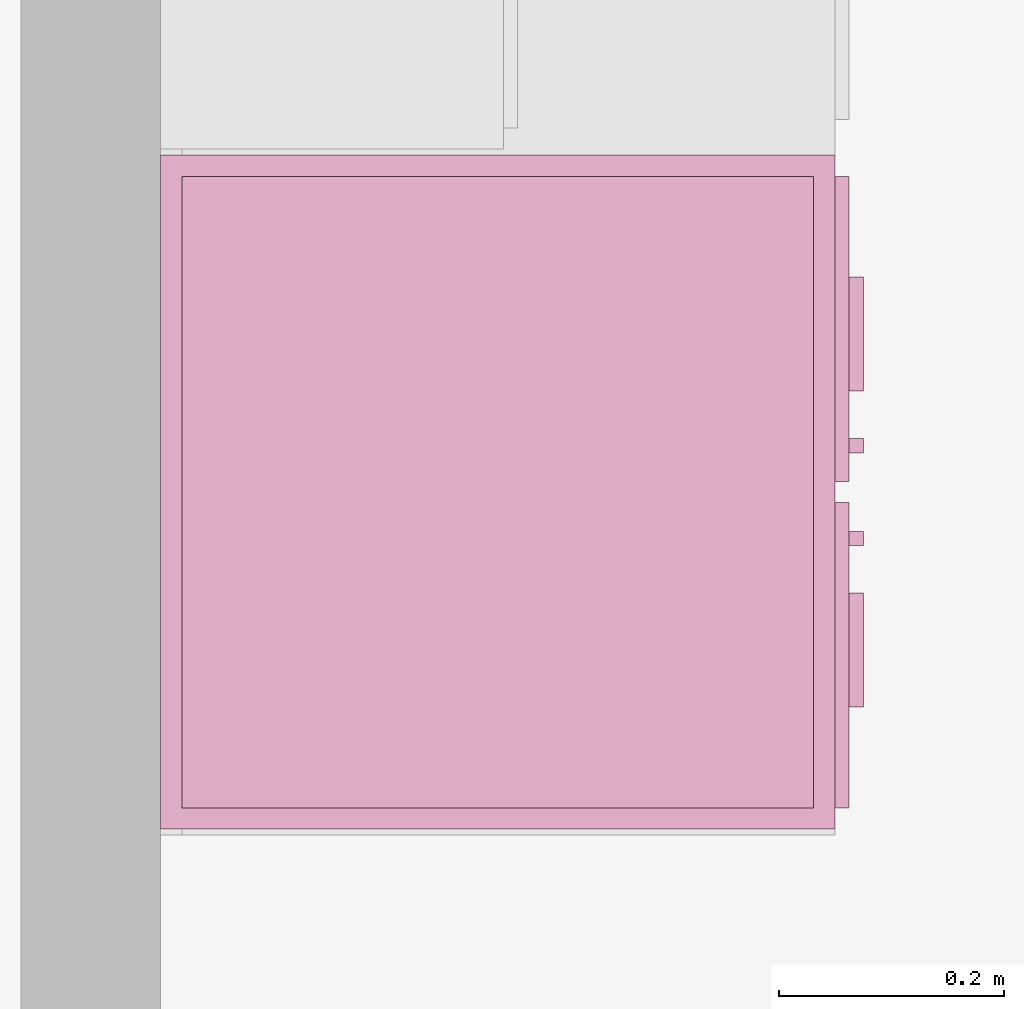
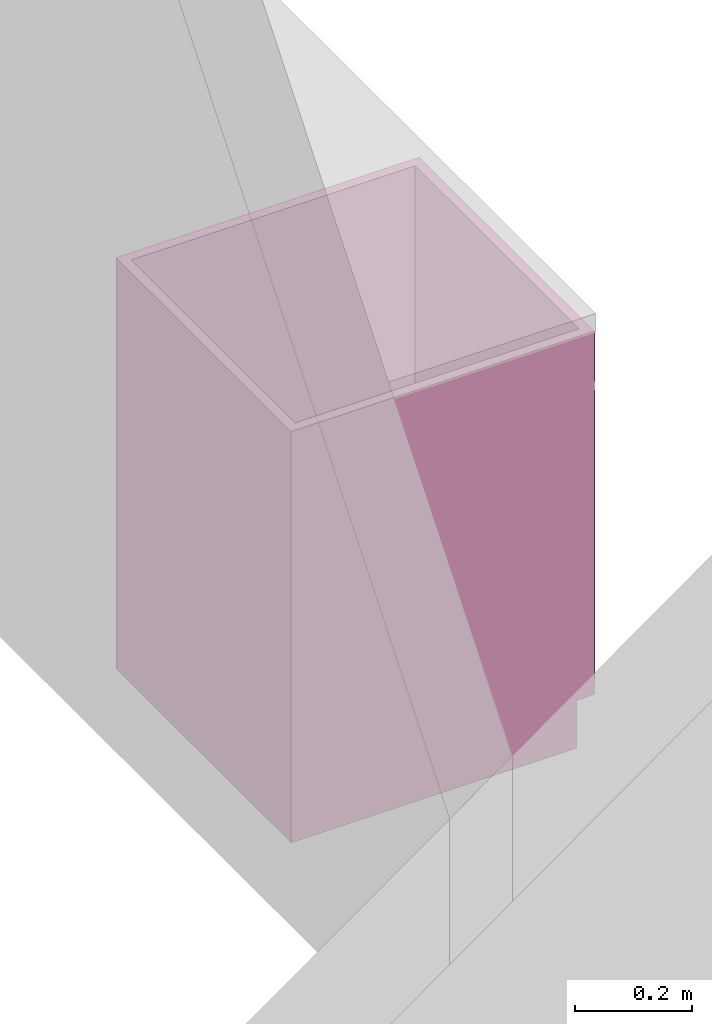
# One storey, part 75 of 87: 1 furnishing.
"""IFC2X3 building model written with IfcOpenShell, lengths in metres."""

from ifc_helpers import new_model, entity, si_unit, converted_unit, frame, origin, place, context, project, spatial, face_set, surface_model, source, transform, mapped, type_object, type_shapes, element, save


model = new_model("IFC2X3")

# Units and contexts
model_context = context("Model", 3, precision=1e-09, world=origin())
plan_context = context("Plan", 3, precision=1e-09, world=origin())
ifc_project = project(units=[si_unit("LENGTHUNIT", "METRE"), si_unit("AREAUNIT", "SQUARE_METRE"), si_unit("VOLUMEUNIT", "CUBIC_METRE"), converted_unit("PLANEANGLEUNIT", "DEGREE", entity("IfcRatioMeasure", 0.01745329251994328), si_unit("PLANEANGLEUNIT", "RADIAN"), dimensions=[0, 0, 0, 0, 0, 0, 0]), si_unit("TIMEUNIT", "SECOND")], contexts=[model_context, plan_context])

# Site, building, storey, space
site_placement = place(None, origin())
site = spatial("IfcSite", under=ifc_project, at=site_placement, Name="Default", CompositionType="ELEMENT")
building_placement = place(site_placement, origin())
building = spatial("IfcBuilding", under=site, at=building_placement, CompositionType="ELEMENT")
storey_placement = place(building_placement, origin())
storey = spatial("IfcBuildingStorey", under=building, at=storey_placement, Name="First Floor", CompositionType="ELEMENT", Elevation=-3.531500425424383e-13)
space_placement = place(storey_placement, origin())
space = spatial("IfcSpace", under=storey, at=space_placement, Name="1E04", CompositionType="ELEMENT", InteriorOrExteriorSpace="INTERNAL")

# Furnishing
furniture_type = type_object("IfcFurnitureType", Name="600mm", AssemblyPlace="NOTDEFINED")
shared_shape = source(origin(), model_context, "Body", "SurfaceModel", [
    surface_model("IfcFaceBasedSurfaceModel", [(0.5809499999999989, 0.0444500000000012, 0.86000000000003), (0.5809499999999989, 0.0444500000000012, 0.09999999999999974), (0.01905000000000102, 0.0444500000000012, 0.09999999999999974), (0.01905000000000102, 0.0444500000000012, 0.86000000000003), (0.5999999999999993, 0.02540000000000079, 0.8600000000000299), (0.0, 0.02540000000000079, 0.8600000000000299), (0.5999999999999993, 0.02540000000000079, 0.09999999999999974), (0.0, 0.02540000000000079, 0.0999999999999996), (0.01905000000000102, 0.6063499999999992, 0.86000000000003), (0.01905000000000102, 0.6063499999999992, 0.09999999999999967), (0.01905000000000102, 0.06040000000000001, 0.09999999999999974), (0.0, 0.6253999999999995, 0.8600000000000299), (0.0, 0.6254000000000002, 0.0), (0.0, 0.06040000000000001, 0.0), (0.0, 0.06040000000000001, 0.09999999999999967), (0.5809499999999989, 0.6063499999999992, 0.86000000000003), (0.5809499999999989, 0.6063499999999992, 0.09999999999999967), (0.5999999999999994, 0.6253999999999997, 0.8600000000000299), (0.5999999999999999, 0.6253999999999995, 0.0), (0.5809499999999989, 0.06040000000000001, 0.09999999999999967), (0.5999999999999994, 0.06040000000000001, 0.09999999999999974), (0.5999999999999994, 0.06040000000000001, 0.0), (0.2103250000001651, 0.0, 0.8155500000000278), (0.2103250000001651, 0.0, 0.8028500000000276), (0.1087250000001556, 0.0, 0.8028500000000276), (0.1087250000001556, 0.0, 0.8155500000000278), (0.4912750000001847, 0.0, 0.8155500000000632), (0.4912750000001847, 0.0, 0.8028500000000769), (0.3896750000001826, 0.0, 0.8028500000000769), (0.3896750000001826, 0.0, 0.8155500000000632), (0.2650750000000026, 0.0, 0.6822000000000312), (0.2650750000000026, 0.0, 0.5806000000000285), (0.2523750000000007, 0.0, 0.5806000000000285), (0.2523750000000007, 0.0, 0.6822000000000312), (0.3476249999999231, 0.0, 0.6822000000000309), (0.3476249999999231, 0.0, 0.5806000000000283), (0.3349249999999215, 0.0, 0.5806000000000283), (0.3349249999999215, 0.0, 0.6822000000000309), (0.2103250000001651, 0.0127000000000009, 0.8155500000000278), (0.2103250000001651, 0.0127000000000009, 0.8028500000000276), (0.1087250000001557, 0.01270000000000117, 0.8028500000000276), (0.1087250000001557, 0.01270000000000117, 0.8155500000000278), (0.4912750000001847, 0.01269999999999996, 0.8155500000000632), (0.4912750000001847, 0.01269999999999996, 0.8028500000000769), (0.3896750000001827, 0.01270000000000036, 0.8028500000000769), (0.3896750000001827, 0.01270000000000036, 0.8155500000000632), (0.2650750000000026, 0.01270000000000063, 0.6822000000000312), (0.2650750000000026, 0.01270000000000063, 0.5806000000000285), (0.2523750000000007, 0.01270000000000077, 0.5806000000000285), (0.2523750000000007, 0.01270000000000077, 0.6822000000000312), (0.3476249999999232, 0.0127000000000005, 0.6822000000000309), (0.3476249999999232, 0.0127000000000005, 0.5806000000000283), (0.3349249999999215, 0.0127000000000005, 0.5806000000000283), (0.3349249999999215, 0.0127000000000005, 0.6822000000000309), (0.2904749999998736, 0.01270000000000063, 0.8409500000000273), (0.2904749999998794, 0.01270000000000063, 0.7393500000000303), (0.01905000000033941, 0.01270000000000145, 0.7393500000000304), (0.01905000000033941, 0.01270000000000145, 0.8409500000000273), (0.5809500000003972, 0.01269999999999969, 0.8409500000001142), (0.5809500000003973, 0.01269999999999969, 0.7393500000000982), (0.3095249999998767, 0.0127000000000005, 0.7393500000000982), (0.309524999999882, 0.0127000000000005, 0.8409500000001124), (0.2904749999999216, 0.01270000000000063, 0.7203000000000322), (0.290474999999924, 0.01270000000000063, 0.1190499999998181), (0.01905000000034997, 0.01270000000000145, 0.1190499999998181), (0.01905000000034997, 0.01270000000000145, 0.7203000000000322), (0.5809500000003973, 0.01269999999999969, 0.7203000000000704), (0.5809500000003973, 0.01269999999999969, 0.1190499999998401), (0.3095249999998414, 0.0127000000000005, 0.1190499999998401), (0.3095249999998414, 0.0127000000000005, 0.7203000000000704), (0.2904749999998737, 0.02540000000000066, 0.8409500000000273), (0.2904749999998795, 0.02540000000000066, 0.7393500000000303), (0.01905000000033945, 0.02540000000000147, 0.7393500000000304), (0.01905000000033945, 0.02540000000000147, 0.8409500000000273), (0.5809500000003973, 0.02539999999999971, 0.8409500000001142), (0.5809500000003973, 0.02539999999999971, 0.7393500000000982), (0.3095249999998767, 0.02540000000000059, 0.7393500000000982), (0.309524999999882, 0.02540000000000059, 0.8409500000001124), (0.2904749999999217, 0.02540000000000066, 0.7203000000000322), (0.290474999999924, 0.02540000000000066, 0.1190499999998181), (0.01905000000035, 0.02540000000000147, 0.1190499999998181), (0.01905000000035, 0.02540000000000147, 0.7203000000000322), (0.5809500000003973, 0.02539999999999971, 0.7203000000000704), (0.5809500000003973, 0.02539999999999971, 0.1190499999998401), (0.3095249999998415, 0.02540000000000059, 0.1190499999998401), (0.3095249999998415, 0.02540000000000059, 0.7203000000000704), (0.580949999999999, 0.6063499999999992, 0.1190499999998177), (0.580949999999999, 0.04445000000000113, 0.1190499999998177), (0.01905000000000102, 0.04445000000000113, 0.1190499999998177), (0.01905000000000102, 0.6063499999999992, 0.1190499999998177), (0.580949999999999, 0.6063499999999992, 0.09999999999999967), (0.580949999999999, 0.04445000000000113, 0.09999999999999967), (0.01905000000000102, 0.04445000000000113, 0.09999999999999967), (0.01905000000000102, 0.6063499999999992, 0.09999999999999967)], [face_set([[[0, 1, 2, 3]], [[0, 4, 5, 3]], [[4, 6, 7, 5]], [[2, 1, 6, 7]], [[3, 8, 9, 10, 2]], [[5, 11, 8, 3]], [[7, 5, 11, 12, 13, 14]], [[2, 7, 14, 10]], [[8, 15, 16, 9]], [[11, 17, 15, 8]], [[12, 11, 17, 18]], [[1, 19, 16, 15, 0]], [[0, 15, 17, 4]], [[4, 6, 20, 21, 18, 17]], [[6, 1, 19, 20]], [[10, 9, 16, 19]], [[18, 21, 13, 12]], [[13, 14, 10, 19, 20, 21]]]), face_set([[[22, 23, 24, 25]], [[26, 27, 28, 29]], [[30, 31, 32, 33]], [[34, 35, 36, 37]], [[38, 39, 40, 41]], [[42, 43, 44, 45]], [[46, 47, 48, 49]], [[50, 51, 52, 53]], [[25, 41, 38, 22]], [[24, 40, 41, 25]], [[23, 24, 40, 39]], [[22, 23, 39, 38]], [[29, 45, 42, 26]], [[28, 44, 45, 29]], [[27, 28, 44, 43]], [[26, 27, 43, 42]], [[33, 49, 46, 30]], [[32, 48, 49, 33]], [[31, 32, 48, 47]], [[30, 31, 47, 46]], [[37, 53, 50, 34]], [[36, 52, 53, 37]], [[35, 36, 52, 51]], [[34, 35, 51, 50]]]), face_set([[[54, 55, 56, 57]], [[58, 59, 60, 61]], [[62, 63, 64, 65]], [[66, 67, 68, 69]], [[70, 71, 72, 73]], [[74, 75, 76, 77]], [[78, 79, 80, 81]], [[82, 83, 84, 85]], [[57, 73, 70, 54]], [[56, 57, 73, 72]], [[55, 56, 72, 71]], [[54, 55, 71, 70]], [[61, 77, 74, 58]], [[60, 76, 77, 61]], [[59, 60, 76, 75]], [[58, 59, 75, 74]], [[65, 81, 78, 62]], [[64, 65, 81, 80]], [[63, 64, 80, 79]], [[62, 63, 79, 78]], [[69, 85, 82, 66]], [[68, 84, 85, 69]], [[67, 68, 84, 83]], [[66, 67, 83, 82]]]), face_set([[[86, 87, 88, 89]], [[90, 91, 92, 93]], [[89, 86, 90, 93]], [[88, 89, 93, 92]], [[87, 91, 92, 88]], [[86, 87, 91, 90]]])]),
])
type_shapes(furniture_type, [shared_shape])
furnishing_placement = place(space_placement, frame((-25.15060000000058, 12.86251512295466, 0.0), z_axis=(0.0, 0.0, 1.0), x_axis=(0.0, 1.0, 0.0)))
element("IfcFurnishingElement", 1, at=furnishing_placement, inside=space, type_object=furniture_type, Name="M_Base Cabinet-Double Door & 2 Drawer:600mm:600mm", ObjectType="600mm", context=model_context, shape_type="MappedRepresentation", body=[
    mapped(shared_shape, transform((0.0, 0.0, 0.0), scale=1.0)),
])

save(model, "model.ifc")
